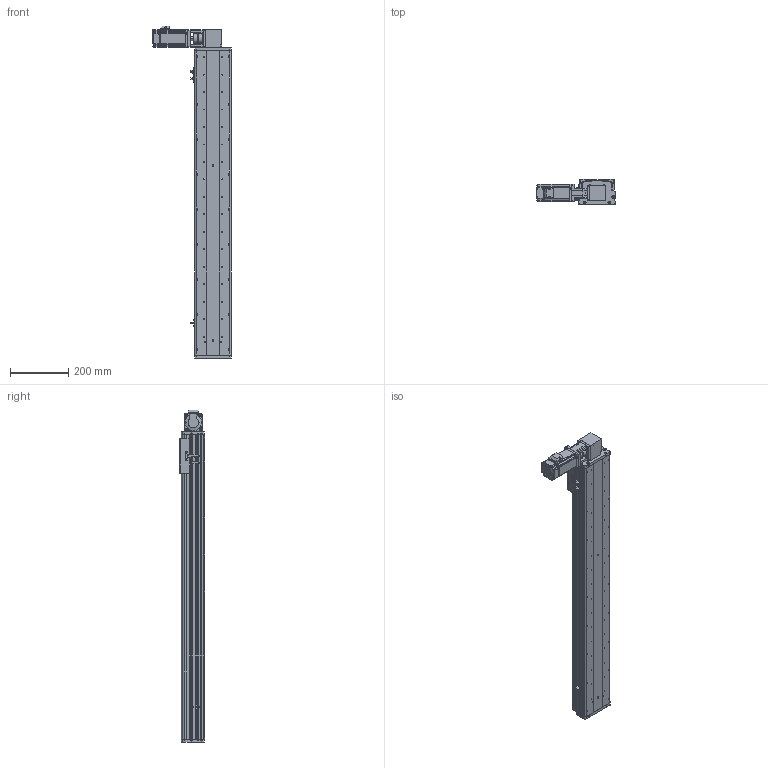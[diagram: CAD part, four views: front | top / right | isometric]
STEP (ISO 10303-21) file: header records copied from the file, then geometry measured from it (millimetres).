
FILE_DESCRIPTION (( 'STEP AP214' ), '1' );
FILE_NAME ('KSD125B-S850-MRT-CM.STEP', '2017-08-07T07:31:34', ( '微软用户' ), ( '微软中国' ), 'SwSTEP 2.0', 'SolidWorks 2014', '' );
FILE_SCHEMA (( 'AUTOMOTIVE_DESIGN' ));
Length unit declared in the file: millimetre
Products named in the file (16): KSD125模组同步带-滑动座1; KSD125B-S850-MRT-CM; KSD125模组850行程同步带-防尘盖; 125模组850行程同步带-底板; MHMD042G1CA_2_03; KSD125模组同步带-防撞垫2; CS-34X32-10X14; 100遵鎮湛假蚾啣1 ; 覜茼え68遵圉猾敕; U倰嫖萇假蚾璃; U倰嫖萇EEㄜSX672; KSD125模组同步带-防撞垫1; 100宽安装板同步带带电机座400W,86; 100宽马达安装板同步带右; 前端板-125宽模组同步带; 125模组同步带-尾端板1
Assembly tree (19 placements, depth 2):
  KSD125B-S850-MRT-CM
    KSD125模组同步带-滑动座1
    125模组同步带-尾端板1
    前端板-125宽模组同步带
    100宽马达安装板同步带右
    100宽安装板同步带带电机座400W,86
    KSD125模组同步带-防撞垫1
    U倰嫖萇EEㄜSX672  x3
    U倰嫖萇假蚾璃  x3
    覜茼え68遵圉猾敕
    100遵鎮湛假蚾啣1 
    CS-34X32-10X14
    KSD125模组同步带-防撞垫2
    MHMD042G1CA_2_03
    125模组850行程同步带-底板
    KSD125模组850行程同步带-防尘盖
Bounding box: 269 x 86 x 1139 mm (x, y, z)
Volume: 3509333.4 mm3; surface area: 1161641.4 mm2
Topology: 18 solids, 21 shells, 1696 faces, 4864 edges, 3208 vertices
Faces by surface type: cylinder 889, plane 704, cone 81, bspline 22
Entity records: 59676 total; most frequent: CARTESIAN_POINT 12062, DIRECTION 8735, ORIENTED_EDGE 8248, EDGE_CURVE 4202, AXIS2_PLACEMENT_3D 3249, VERTEX_POINT 2800, VECTOR 2237, LINE 2237
